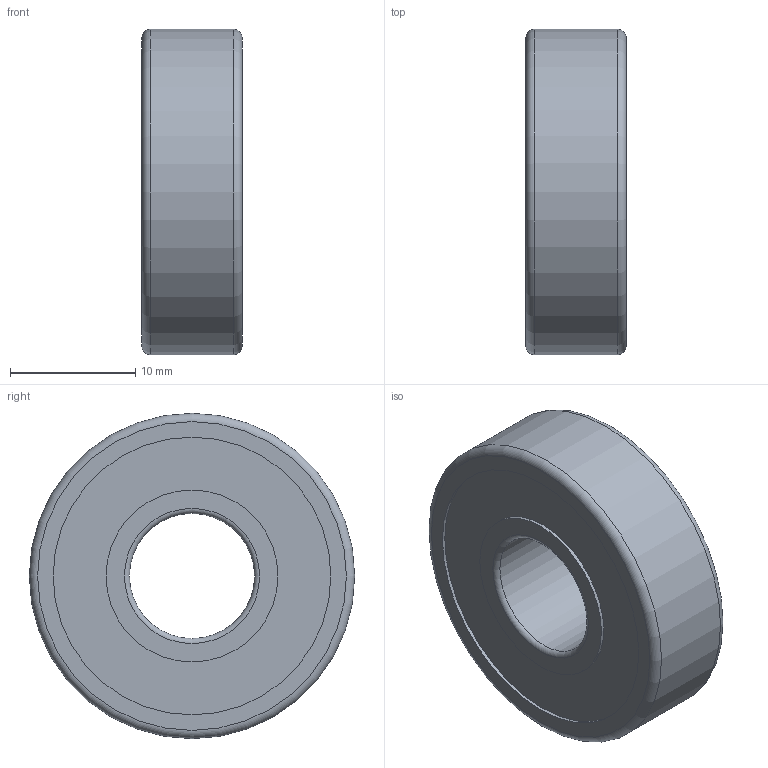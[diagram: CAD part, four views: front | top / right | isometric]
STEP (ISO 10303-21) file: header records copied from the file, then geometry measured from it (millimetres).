
FILE_DESCRIPTION(('STEP AP214'), '1');
FILE_NAME('6000ZZ-Ïîäøèïíèê', '', ('UNSPECIFIED'), ('UNSPECIFIED'), 'ASCON STEP Converter 1.6', 'ASCON Math Kernel', '');
FILE_SCHEMA(('AUTOMOTIVE_DESIGN { 1 0 10303 214 3 1 1}'));
Length unit declared in the file: millimetre
Bounding box: 8 x 26 x 26 mm (x, y, z)
Volume: 2346.2 mm3; surface area: 3787.7 mm2
Topology: 10 solids, 11 shells, 33 faces, 67 edges, 42 vertices
Faces by surface type: cylinder 10, sphere 9, plane 8, torus 6
Full cylindrical faces by diameter (mm): 10 x1, 13.738 x4, 22.192 x4, 26 x1
Entity records: 942 total; most frequent: DIRECTION 116, CARTESIAN_POINT 82, AXIS2_PLACEMENT_3D 58, EDGE_LOOP 48, ORIENTED_EDGE 48, COLOUR_RGB 43, FILL_AREA_STYLE_COLOUR 43, FILL_AREA_STYLE 43
